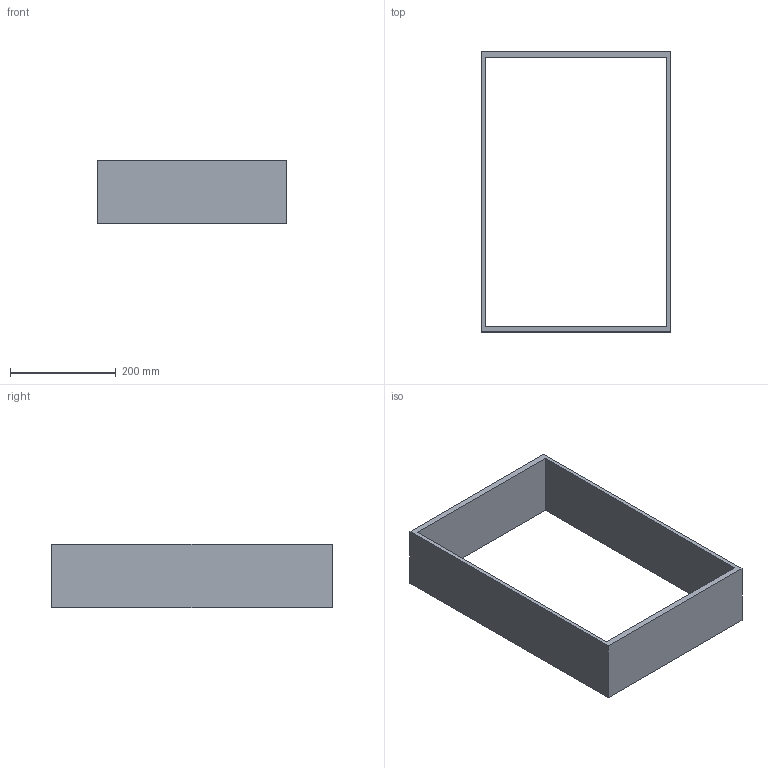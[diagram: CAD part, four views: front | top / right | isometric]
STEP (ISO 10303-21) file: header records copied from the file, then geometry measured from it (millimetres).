
FILE_DESCRIPTION (( 'STEP AP214' ), '1' );
FILE_NAME ('Vario Multi H120 NL550_B450_16 mm_Alu-Alu.step', '2010-10-08T09:48:07', ( 'grass' ), ( '' ), 'SwSTEP 2.0', 'SolidWorks 2010', '' );
FILE_SCHEMA (( 'AUTOMOTIVE_DESIGN' ));
Length unit declared in the file: millimetre
Products named in the file (1): Vario Multi H120 NL550_B450_16 mm_Alu-Alu
Bounding box: 358 x 529 x 120 mm (x, y, z)
Volume: 1918560 mm3; surface area: 448616 mm2
Topology: 1 solids, 1 shells, 10 faces, 24 edges, 16 vertices
Faces by surface type: plane 10
Entity records: 326 total; most frequent: CARTESIAN_POINT 51, ORIENTED_EDGE 48, DIRECTION 46, EDGE_CURVE 24, VECTOR 24, LINE 24, VERTEX_POINT 16, EDGE_LOOP 12
